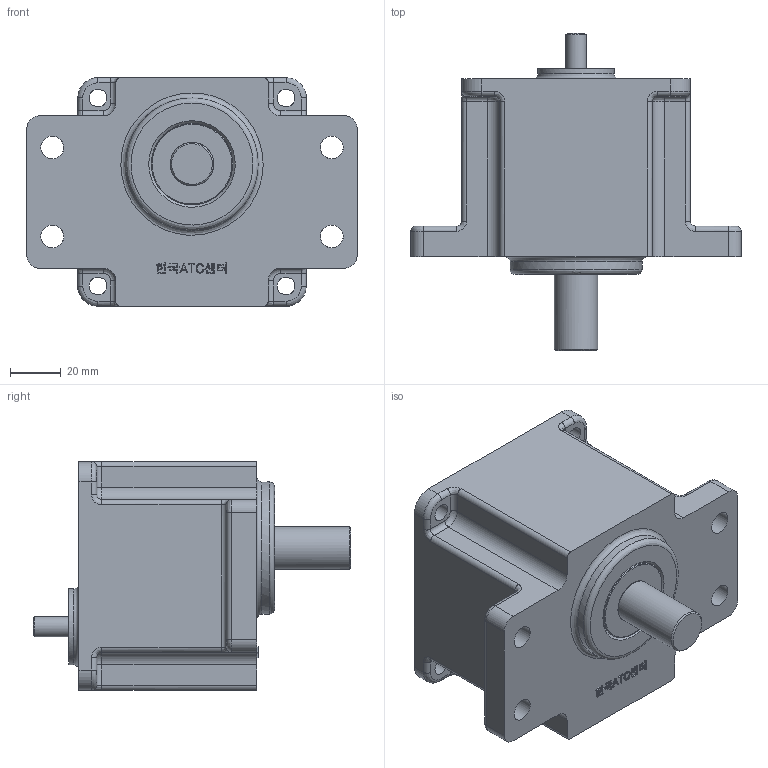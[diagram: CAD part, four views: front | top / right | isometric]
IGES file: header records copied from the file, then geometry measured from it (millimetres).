
Global section: file name: 답안조립품; native system: Autodesk Inventor 2015; preprocessor: unknown; author: 영환,,11; organization: 0; date: 20141203.155923; units: millimetre
Bounding box: 130 x 125 x 90 mm (x, y, z)
Volume: 376117.5 mm3; surface area: 116441 mm2
Topology: 45 solids, 45 shells, 1036 faces, 2890 edges, 1940 vertices
Faces by surface type: bspline 1036
